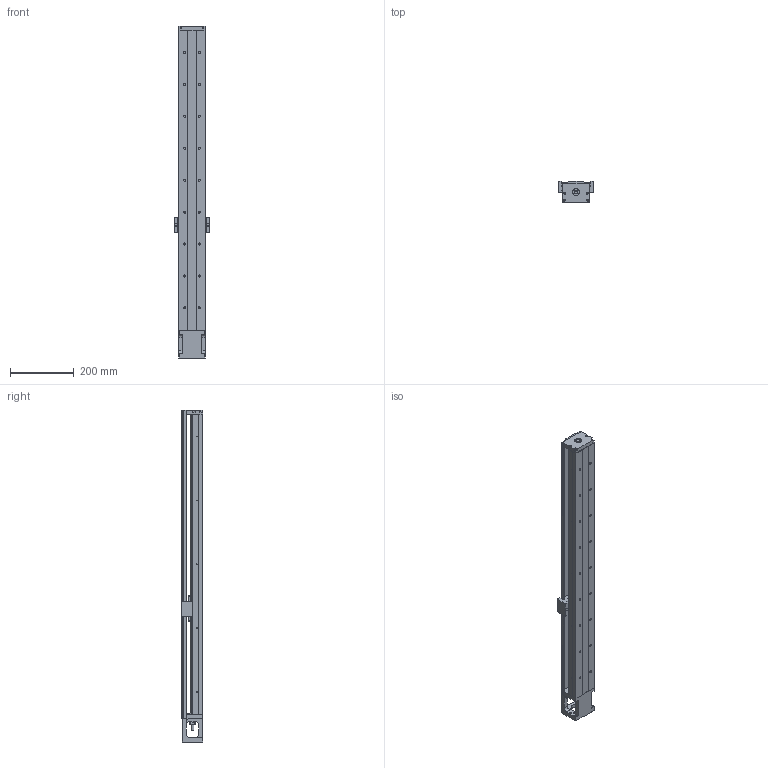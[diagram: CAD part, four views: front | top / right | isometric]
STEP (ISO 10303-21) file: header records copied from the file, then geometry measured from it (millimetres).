
FILE_DESCRIPTION(/* description */ (''),/* implementation_level */ '2;1');
FILE_NAME(/* name */ 'KP46S-940-C.stp',/* time_stamp */ '2020-06-05T10:46:16+08:00',/* author */ (''),/* organization */ (''),/* preprocessor_version */ 'ST-DEVELOPER v14',/* originating_system */ 'SIEMENS PLM Software NX 8.0',/* authorisation */ '');
FILE_SCHEMA (('AUTOMOTIVE_DESIGN { 1 0 10303 214 3 1 1 1 }'));
Length unit declared in the file: millimetre
Products named in the file (1): model1
Bounding box: 112 x 68 x 1040 mm (x, y, z)
Volume: 2494015.8 mm3; surface area: 631413 mm2
Topology: 7 solids, 18 shells, 739 faces, 1954 edges, 1290 vertices
Faces by surface type: plane 342, cylinder 274, cone 62, bspline 53, torus 8
Full cylindrical faces by diameter (mm): 2 x2, 2.11 x2, 2.15 x10, 2.42 x6, 2.5 x4, 3 x4, 3.2 x4, 3.3 x12, 3.4 x4, 4 x6, 4.2 x4, 4.5 x8, 5 x8, 6 x8, 6.35 x2, 6.6 x18, 6.7 x2, 8 x1, 8.7 x4, 9.6 x1, 10 x3, 11 x18, 12 x1, 14.95 x2, 15 x1, 16 x2, 22 x3, 27.5 x1, 44 x1, 50 x1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
Entity records: 33106 total; most frequent: CARTESIAN_POINT 13512, ORIENTED_EDGE 3344, DIRECTION 3242, EDGE_CURVE 1672, AXIS2_PLACEMENT_3D 1211, VERTEX_POINT 1207, EDGE_LOOP 1055, LINE 820
